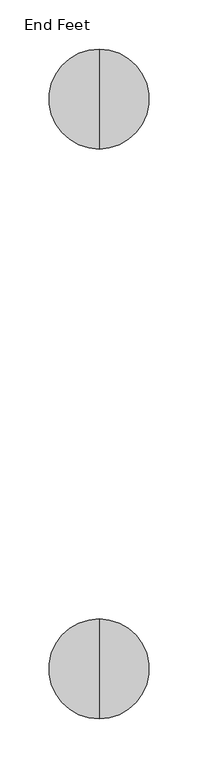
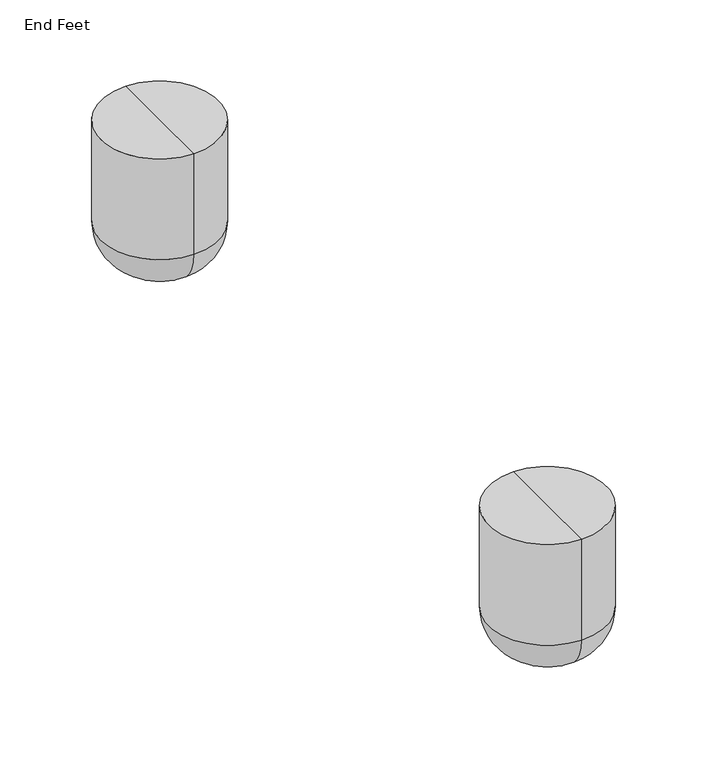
"""IFC4 building model written with IfcOpenShell, lengths in millimetres: furniture geometry, Coalesse_AM_Ensemble_Seat_EndOption : End Feet."""

from ifc_helpers import new_model, si_unit, point, frame, origin, place, context, project, spatial, circle_curve, ellipse_curve, trimmed, source, transform, mapped, element, save
from ifc_brep_helpers import plane_surface, cylinder_surface, revolved_surface, advanced_brep


def end_feet_360865f5(model_context):
    return source(origin(), model_context, "Body", "AdvancedBrep", [
        advanced_brep(
        [(135.289512, -747.4877706, 130.0907271), (135.289512, -696.5184037, 130.0907271), (135.289512, -645.5490367, 130.0907271), (135.289512, -747.4877706, 38.1), (135.289512, -645.5490367, 38.1), (135.289512, -709.3877706, 0.0), (135.289512, -683.6490367, 0.0), (135.289512, -696.5184037, 0.0)],
        [
            (0, 1),
            (1, 2),
            (2, 0, circle_curve(frame((135.289512, -696.5184037, 130.0907271), z_axis=(0.0, 0.0, 1.0), x_axis=(0.0, 1.0, 0.0)), 50.969367)),
            (0, 2, circle_curve(frame((135.289512, -696.5184037, 130.0907271), z_axis=(0.0, 0.0, 1.0), x_axis=(0.0, 1.0, 0.0)), 50.969367)),
            (3, 0),
            (2, 4),
            (4, 3, circle_curve(frame((135.289512, -696.5184037, 38.1), z_axis=(0.0, 0.0, 1.0), x_axis=(0.0, 1.0, 0.0)), 50.969367)),
            (3, 4, circle_curve(frame((135.289512, -696.5184037, 38.1), z_axis=(0.0, 0.0, 1.0), x_axis=(0.0, 1.0, 0.0)), 50.969367)),
            (5, 3, circle_curve(frame((135.289512, -709.3877706, 38.1), z_axis=(-1.0, 0.0, 0.0), x_axis=(0.0, -1.0, 0.0)), 38.1)),
            (4, 6, circle_curve(frame((135.289512, -683.6490367, 38.1), z_axis=(-1.0, 0.0, 0.0), x_axis=(0.0, 1.0, 0.0)), 38.1)),
            (6, 5, circle_curve(frame((135.289512, -696.5184037, 0.0), z_axis=(0.0, 0.0, 1.0), x_axis=(0.0, 1.0, 0.0)), 12.869367)),
            (5, 6, circle_curve(frame((135.289512, -696.5184037, 0.0), z_axis=(0.0, 0.0, 1.0), x_axis=(0.0, 1.0, 0.0)), 12.869367)),
            (7, 5),
            (6, 7),
        ],
        [
            plane_surface(frame((135.289512, -696.5184037, 130.0907271), z_axis=(0.0, 0.0, 1.0), x_axis=(0.0, 1.0, 0.0))),
            cylinder_surface(frame((135.289512, -696.5184037, 130.0907271), z_axis=(0.0, 0.0, -1.0), x_axis=(0.0, 1.0, 0.0)), 50.969367),
            revolved_surface(trimmed(ellipse_curve(frame((135.289512, -683.6490367, 38.1), z_axis=(-1.0, 0.0, 0.0), x_axis=(0.0, 1.0, 0.0)), 38.1, 38.1), [point((135.289512, -645.5490367, 38.1))], [point((135.289512, -683.6490367, 0.0))], True, "CARTESIAN"), (135.289512, -696.5184037, 130.0907271), (0.0, 0.0, -1.0)),
            plane_surface(frame((135.289512, -696.5184037, 0.0), z_axis=(0.0, 0.0, -1.0), x_axis=(0.0, 1.0, 0.0))),
        ],
        [
            (0, [[1, 2, 3]]),
            (0, [[-2, -1, 4]]),
            (1, [[5, -3, 6, 7]]),
            (1, [[-6, -4, -5, 8]]),
            (2, [[9, -7, 10, 11]]),
            (2, [[-10, -8, -9, 12]]),
            (3, [[13, -11, 14]]),
            (3, [[-14, -12, -13]]),
        ],
    ),
        advanced_brep(
        [(135.289512, -166.4627706, 130.0907271), (135.289512, -115.4934037, 130.0907271), (135.289512, -64.5240367, 130.0907271), (135.289512, -166.4627706, 38.1), (135.289512, -64.5240367, 38.1), (135.289512, -128.3627706, 0.0), (135.289512, -102.6240367, 0.0), (135.289512, -115.4934037, 0.0)],
        [
            (0, 1),
            (1, 2),
            (2, 0, circle_curve(frame((135.289512, -115.4934037, 130.0907271), z_axis=(0.0, 0.0, 1.0), x_axis=(0.0, 1.0, 0.0)), 50.969367)),
            (0, 2, circle_curve(frame((135.289512, -115.4934037, 130.0907271), z_axis=(0.0, 0.0, 1.0), x_axis=(0.0, 1.0, 0.0)), 50.969367)),
            (3, 0),
            (2, 4),
            (4, 3, circle_curve(frame((135.289512, -115.4934037, 38.1), z_axis=(0.0, 0.0, 1.0), x_axis=(0.0, 1.0, 0.0)), 50.969367)),
            (3, 4, circle_curve(frame((135.289512, -115.4934037, 38.1), z_axis=(0.0, 0.0, 1.0), x_axis=(0.0, 1.0, 0.0)), 50.969367)),
            (5, 3, circle_curve(frame((135.289512, -128.3627706, 38.1), z_axis=(-1.0, 0.0, 0.0), x_axis=(0.0, -1.0, 0.0)), 38.1)),
            (4, 6, circle_curve(frame((135.289512, -102.6240367, 38.1), z_axis=(-1.0, 0.0, 0.0), x_axis=(0.0, 1.0, 0.0)), 38.1)),
            (6, 5, circle_curve(frame((135.289512, -115.4934037, 0.0), z_axis=(0.0, 0.0, 1.0), x_axis=(0.0, 1.0, 0.0)), 12.869367)),
            (5, 6, circle_curve(frame((135.289512, -115.4934037, 0.0), z_axis=(0.0, 0.0, 1.0), x_axis=(0.0, 1.0, 0.0)), 12.869367)),
            (7, 5),
            (6, 7),
        ],
        [
            plane_surface(frame((135.289512, -115.4934037, 130.0907271), z_axis=(0.0, 0.0, 1.0), x_axis=(0.0, 1.0, 0.0))),
            cylinder_surface(frame((135.289512, -115.4934037, 130.0907271), z_axis=(0.0, 0.0, -1.0), x_axis=(0.0, 1.0, 0.0)), 50.969367),
            revolved_surface(trimmed(ellipse_curve(frame((135.289512, -102.6240367, 38.1), z_axis=(-1.0, 0.0, 0.0), x_axis=(0.0, 1.0, 0.0)), 38.1, 38.1), [point((135.289512, -64.5240367, 38.1))], [point((135.289512, -102.6240367, 0.0))], True, "CARTESIAN"), (135.289512, -115.4934037, 130.0907271), (0.0, 0.0, -1.0)),
            plane_surface(frame((135.289512, -115.4934037, 0.0), z_axis=(0.0, 0.0, -1.0), x_axis=(0.0, 1.0, 0.0))),
        ],
        [
            (0, [[1, 2, 3]]),
            (0, [[-2, -1, 4]]),
            (1, [[5, -3, 6, 7]]),
            (1, [[-6, -4, -5, 8]]),
            (2, [[9, -7, 10, 11]]),
            (2, [[-10, -8, -9, 12]]),
            (3, [[13, -11, 14]]),
            (3, [[-14, -12, -13]]),
        ],
    ),
    ])


if __name__ == "__main__":
    model = new_model("IFC4")
    model_context = context("Model", 3, world=origin())
    ifc_project = project(units=[si_unit("LENGTHUNIT", "METRE", prefix="MILLI")], contexts=[model_context])
    site = spatial("IfcSite", under=ifc_project)
    building = spatial("IfcBuilding", under=site)
    placement = place(None, origin())
    end_feet_shape = end_feet_360865f5(model_context)
    element("IfcFurniture", 1, ObjectType="Coalesse_AM_Ensemble_Seat_EndOption : End Feet", at=placement, inside=building, context=model_context, shape_type="MappedRepresentation", body=[
        mapped(end_feet_shape, transform((0.0, 0.0, 0.0), x_axis=(1.0, 0.0, 0.0), y_axis=(0.0, 1.0, 0.0), z_axis=(0.0, 0.0, 1.0))),
    ])
    save(model, "model.ifc")
